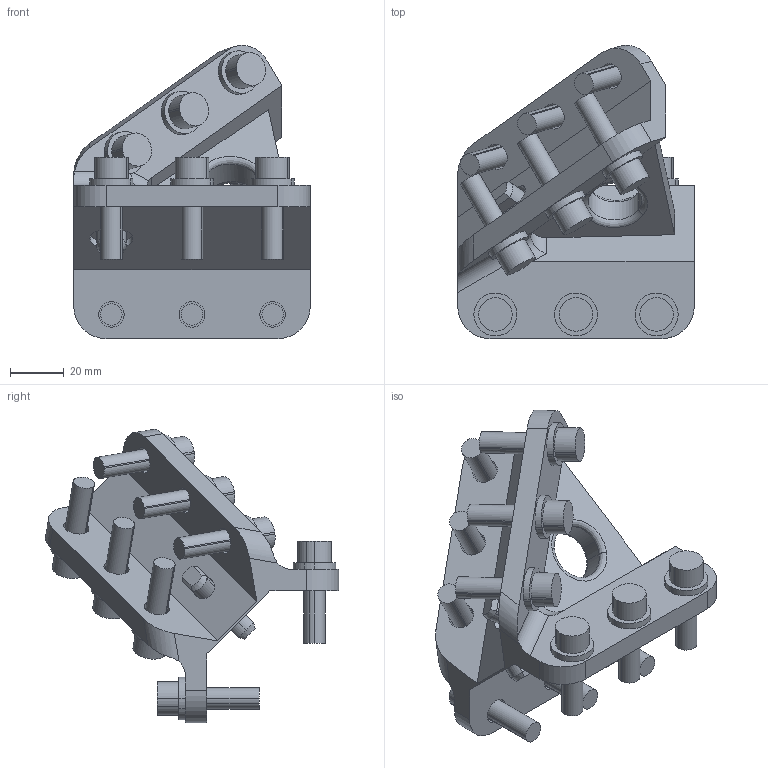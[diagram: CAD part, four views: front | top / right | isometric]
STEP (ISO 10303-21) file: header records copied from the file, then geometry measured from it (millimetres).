
FILE_DESCRIPTION(('STEP AP214'),'1');
FILE_NAME('EGT086_1706076_VERB_45GRAD_SW80_SW50.CATPart.stp','2015-09-14T13:07:17',('3D-Tool'),(' '),'Spatial InterOp 3D',' ',' ');
FILE_SCHEMA(('automotive_design'));
Length unit declared in the file: millimetre
Products named in the file (15): EGT086_1706076_VERB_45GRAD_SW80_SW50|EGT086_VERB_45GRAD_SW80_SW50|EdgeFillet.21; 1; 2; 3; 4; 5; 6; 7; 8; 9; 10; 11; 12; EGT086_1706076_VERB_45GRAD_SW80_SW50|EGT212_ZENTRIERSTIFT_1|Funktionsteil; EGT086_1706076_VERB_45GRAD_SW80_SW50|EGT212_ZENTRIERSTIFT_2|Funktionsteil
Bounding box: 88 x 109.15 x 109.15 mm (x, y, z)
Volume: 156867.3 mm3; surface area: 54404 mm2
Topology: 15 solids, 15 shells, 338 faces, 822 edges, 544 vertices
Faces by surface type: cylinder 238, plane 92, bspline 4, cone 4
Entity records: 14137 total; most frequent: CARTESIAN_POINT 2722, DIRECTION 1934, ORIENTED_EDGE 1644, EDGE_CURVE 822, AXIS2_PLACEMENT_3D 805, VERTEX_POINT 544, CIRCLE 456, EDGE_LOOP 394
